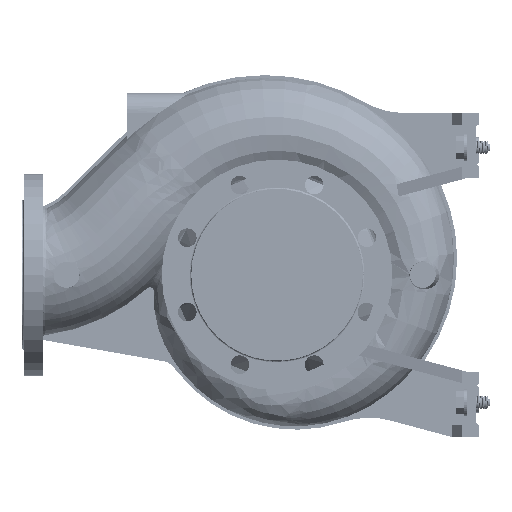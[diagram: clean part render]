
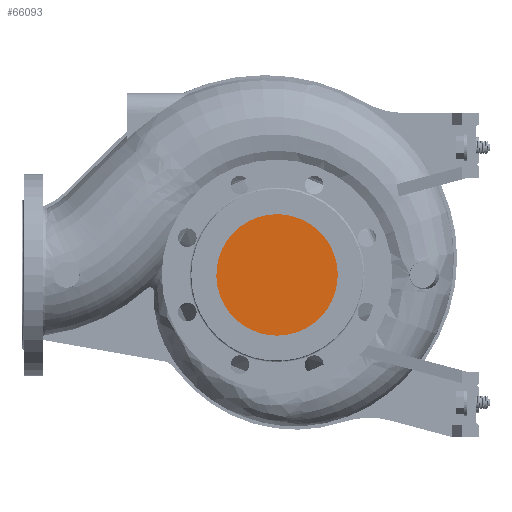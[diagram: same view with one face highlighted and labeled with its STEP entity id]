
A CAD part, left-side view. The second image highlights one B-rep face of the part: STEP entity #66093.
In plain terms, the highlighted planar face has unit normal (-1, 0, 0).
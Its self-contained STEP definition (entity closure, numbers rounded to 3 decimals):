
#1018 = CARTESIAN_POINT ( 'NONE',  ( -138., -14.726, 74.033 ) ) ;
#2875 = CARTESIAN_POINT ( 'NONE',  ( -138., -53.375, 53.375 ) ) ;
#11425 = CARTESIAN_POINT ( 'NONE',  ( -138., 0., 75. ) ) ;
#12222 = VERTEX_POINT ( 'NONE', #11425 ) ;
#14509 = CARTESIAN_POINT ( 'NONE',  ( -138., -75.483, 0. ) ) ;
#17370 = CARTESIAN_POINT ( 'NONE',  ( -138., -21.807, -71.886 ) ) ;
#20842 = CARTESIAN_POINT ( 'NONE',  ( -138., 31.054, -68.578 ) ) ;
#21790 = CARTESIAN_POINT ( 'NONE',  ( -138., 41.937, -62.763 ) ) ;
#22756 = CARTESIAN_POINT ( 'NONE',  ( -138., 74.034, -14.724 ) ) ;
#23723 = CARTESIAN_POINT ( 'NONE',  ( -138., 58.069, -47.656 ) ) ;
#29054 = CARTESIAN_POINT ( 'NONE',  ( -138., -62.461, -41.735 ) ) ;
#34388 = CARTESIAN_POINT ( 'NONE',  ( -138., 0., -75. ) ) ;
#37240 = CARTESIAN_POINT ( 'NONE',  ( -138., 4.909, 75. ) ) ;
#43503 = CARTESIAN_POINT ( 'NONE',  ( -138., -74.033, 14.726 ) ) ;
#44468 = CARTESIAN_POINT ( 'NONE',  ( -138., -41.936, 62.762 ) ) ;
#46344 = CARTESIAN_POINT ( 'NONE',  ( -138., -66.25, -35.411 ) ) ;
#48856 = CARTESIAN_POINT ( 'NONE',  ( -138., 69.738, 28.886 ) ) ;
#50781 = CARTESIAN_POINT ( 'NONE',  ( -138., 62.461, -41.735 ) ) ;
#58513 = DIRECTION ( 'NONE',  ( -1., 0., 0. ) ) ;
#59817 = ORIENTED_EDGE ( 'NONE', *, *, #189429, .T. ) ;
#60834 = CARTESIAN_POINT ( 'NONE',  ( -138., -4.909, 75. ) ) ;
#65244 = CARTESIAN_POINT ( 'NONE',  ( -138., 53.375, 53.375 ) ) ;
#66093 = ADVANCED_FACE ( 'NONE', ( #86536 ), #104816, .T. ) ;
#68102 = CARTESIAN_POINT ( 'NONE',  ( -138., 51.474, -54.933 ) ) ;
#71928 = CARTESIAN_POINT ( 'NONE',  ( -138., 0., -75. ) ) ;
#73411 = CARTESIAN_POINT ( 'NONE',  ( -138., -62.762, 41.936 ) ) ;
#86536 = FACE_OUTER_BOUND ( 'NONE', #105965, .T. ) ;
#87905 = CARTESIAN_POINT ( 'NONE',  ( -138., 0., -75. ) ) ;
#88843 = CARTESIAN_POINT ( 'NONE',  ( -138., -31.054, -68.578 ) ) ;
#90995 = EDGE_CURVE ( 'NONE', #95929, #12222, #159258, .T. ) ;
#95929 = VERTEX_POINT ( 'NONE', #71928 ) ;
#97080 = CARTESIAN_POINT ( 'NONE',  ( -138., 0., 75. ) ) ;
#104816 = PLANE ( 'NONE',  #165012 ) ;
#105965 = EDGE_LOOP ( 'NONE', ( #153437, #59817 ) ) ;
#108706 = CARTESIAN_POINT ( 'NONE',  ( -138., 14.726, 74.033 ) ) ;
#117828 = CARTESIAN_POINT ( 'NONE',  ( -138., -2.453, -75. ) ) ;
#123188 = CARTESIAN_POINT ( 'NONE',  ( -138., 21.807, -71.886 ) ) ;
#126032 = CARTESIAN_POINT ( 'NONE',  ( -138., 2.453, -75. ) ) ;
#130933 = DIRECTION ( 'NONE',  ( 0., 0., 1. ) ) ;
#132290 = CARTESIAN_POINT ( 'NONE',  ( -138., -51.474, -54.933 ) ) ;
#133255 = CARTESIAN_POINT ( 'NONE',  ( -138., 0., 75. ) ) ;
#137664 = CARTESIAN_POINT ( 'NONE',  ( -138., 14.655, -73.677 ) ) ;
#140525 = CARTESIAN_POINT ( 'NONE',  ( -138., 75.483, 0. ) ) ;
#146788 = CARTESIAN_POINT ( 'NONE',  ( -138., -7.364, -74.759 ) ) ;
#147742 = CARTESIAN_POINT ( 'NONE',  ( -138., -41.937, -62.763 ) ) ;
#148713 = CARTESIAN_POINT ( 'NONE',  ( -138., -14.655, -73.677 ) ) ;
#153121 = CARTESIAN_POINT ( 'NONE',  ( -138., 28.886, 69.738 ) ) ;
#153437 = ORIENTED_EDGE ( 'NONE', *, *, #90995, .T. ) ;
#155985 = CARTESIAN_POINT ( 'NONE',  ( -138., 7.364, -74.759 ) ) ;
#159258 = B_SPLINE_CURVE_WITH_KNOTS ( 'NONE', 3,
 ( #87905, #117828, #146788, #148713, #17370, #88843, #147742, #132290, #161306, #29054, #46344, #164141, #177673, #14509, #43503, #178607, #73411, #2875, #44468, #179561, #1018, #60834, #133255 ),
 .UNSPECIFIED., .F., .F.,
 ( 4, 1, 1, 1, 1, 1, 1, 1, 1, 1, 1, 1, 1, 1, 1, 1, 1, 1, 1, 1, 4 ),
 ( 0., 0.007, 0.015, 0.022, 0.029, 0.044, 0.059, 0.066, 0.074, 0.081, 0.088, 0.103, 0.118, 0.133, 0.147, 0.162, 0.177, 0.191, 0.206, 0.221, 0.236 ),
 .UNSPECIFIED. ) ;
#161306 = CARTESIAN_POINT ( 'NONE',  ( -138., -58.069, -47.656 ) ) ;
#164141 = CARTESIAN_POINT ( 'NONE',  ( -138., -70.45, -26.534 ) ) ;
#165012 = AXIS2_PLACEMENT_3D ( 'NONE', #189833, #58513, #130933 ) ;
#166622 = CARTESIAN_POINT ( 'NONE',  ( -138., 70.45, -26.534 ) ) ;
#167593 = CARTESIAN_POINT ( 'NONE',  ( -138., 74.033, 14.726 ) ) ;
#170458 = CARTESIAN_POINT ( 'NONE',  ( -138., 41.936, 62.762 ) ) ;
#177673 = CARTESIAN_POINT ( 'NONE',  ( -138., -74.034, -14.724 ) ) ;
#178607 = CARTESIAN_POINT ( 'NONE',  ( -138., -69.738, 28.886 ) ) ;
#179561 = CARTESIAN_POINT ( 'NONE',  ( -138., -28.886, 69.738 ) ) ;
#182987 = B_SPLINE_CURVE_WITH_KNOTS ( 'NONE', 3,
 ( #97080, #37240, #108706, #153121, #170458, #65244, #183998, #48856, #167593, #140525, #22756, #166622, #183052, #50781, #23723, #68102, #21790, #20842, #123188, #137664, #155985, #126032, #34388 ),
 .UNSPECIFIED., .F., .F.,
 ( 4, 1, 1, 1, 1, 1, 1, 1, 1, 1, 1, 1, 1, 1, 1, 1, 1, 1, 1, 1, 4 ),
 ( 0., 0.015, 0.029, 0.044, 0.059, 0.074, 0.088, 0.103, 0.118, 0.133, 0.147, 0.155, 0.162, 0.169, 0.177, 0.191, 0.206, 0.214, 0.221, 0.228, 0.236 ),
 .UNSPECIFIED. ) ;
#183052 = CARTESIAN_POINT ( 'NONE',  ( -138., 66.25, -35.411 ) ) ;
#183998 = CARTESIAN_POINT ( 'NONE',  ( -138., 62.762, 41.936 ) ) ;
#189429 = EDGE_CURVE ( 'NONE', #12222, #95929, #182987, .T. ) ;
#189833 = CARTESIAN_POINT ( 'NONE',  ( -138., -76.373, -75.9 ) ) ;
